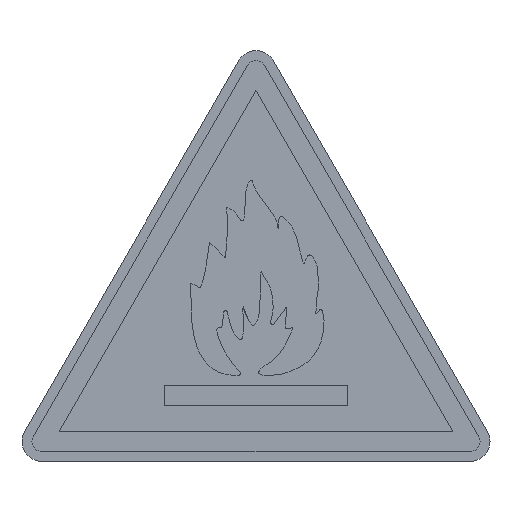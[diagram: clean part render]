
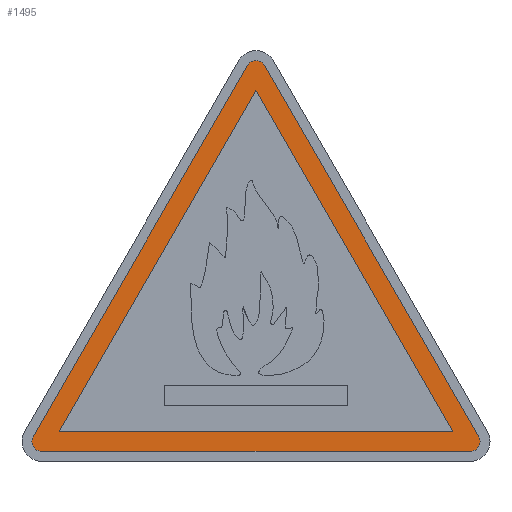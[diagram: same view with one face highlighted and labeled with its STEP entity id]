
A CAD part, top view. The second image highlights one B-rep face of the part: STEP entity #1495.
In plain terms, the highlighted planar face has unit normal (0, 0, 1).
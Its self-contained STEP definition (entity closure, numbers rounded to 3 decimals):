
#2 = EDGE_LOOP ( 'NONE', ( #222, #993, #475 ) ) ;
#5 = CARTESIAN_POINT ( 'NONE',  ( -19.804, 3., 0.22 ) ) ;
#11 = LINE ( 'NONE', #1099, #1204 ) ;
#37 = CARTESIAN_POINT ( 'NONE',  ( -22.402, 2.5, 0.22 ) ) ;
#40 = PLANE ( 'NONE',  #751 ) ;
#49 = VERTEX_POINT ( 'NONE', #1491 ) ;
#148 = VERTEX_POINT ( 'NONE', #37 ) ;
#154 = DIRECTION ( 'NONE',  ( 0., 0., 1. ) ) ;
#173 = CARTESIAN_POINT ( 'NONE',  ( 0., 39.301, 0.22 ) ) ;
#180 = CARTESIAN_POINT ( 'NONE',  ( 0., 37.301, 0.22 ) ) ;
#222 = ORIENTED_EDGE ( 'NONE', *, *, #997, .F. ) ;
#243 = LINE ( 'NONE', #848, #1040 ) ;
#282 = FACE_OUTER_BOUND ( 'NONE', #567, .T. ) ;
#300 = VECTOR ( 'NONE', #679, 1000. ) ;
#307 = EDGE_CURVE ( 'NONE', #661, #1910, #1427, .T. ) ;
#309 = DIRECTION ( 'NONE',  ( -0.5, 0.866, 0. ) ) ;
#332 = CARTESIAN_POINT ( 'NONE',  ( -22.536, 2., 0.22 ) ) ;
#367 = DIRECTION ( 'NONE',  ( 0., 0., 1. ) ) ;
#383 = CARTESIAN_POINT ( 'NONE',  ( 0., 37.301, 0.22 ) ) ;
#448 = EDGE_CURVE ( 'NONE', #1717, #1006, #1351, .T. ) ;
#453 = AXIS2_PLACEMENT_3D ( 'NONE', #1249, #1700, #1547 ) ;
#475 = ORIENTED_EDGE ( 'NONE', *, *, #741, .F. ) ;
#542 = ORIENTED_EDGE ( 'NONE', *, *, #933, .T. ) ;
#567 = EDGE_LOOP ( 'NONE', ( #1202, #1309, #1641, #983, #1593, #542, #838 ) ) ;
#570 = VERTEX_POINT ( 'NONE', #1304 ) ;
#596 = LINE ( 'NONE', #1028, #1885 ) ;
#614 = VERTEX_POINT ( 'NONE', #332 ) ;
#661 = VERTEX_POINT ( 'NONE', #180 ) ;
#679 = DIRECTION ( 'NONE',  ( -0.5, -0.866, 0. ) ) ;
#703 = AXIS2_PLACEMENT_3D ( 'NONE', #1603, #154, #1340 ) ;
#741 = EDGE_CURVE ( 'NONE', #1229, #661, #1622, .T. ) ;
#748 = EDGE_CURVE ( 'NONE', #1341, #49, #596, .T. ) ;
#751 = AXIS2_PLACEMENT_3D ( 'NONE', #772, #1814, #1367 ) ;
#772 = CARTESIAN_POINT ( 'NONE',  ( 0., 39.301, 0.22 ) ) ;
#793 = VECTOR ( 'NONE', #309, 1000. ) ;
#838 = ORIENTED_EDGE ( 'NONE', *, *, #1163, .T. ) ;
#848 = CARTESIAN_POINT ( 'NONE',  ( -19.804, 3., 0.22 ) ) ;
#899 = CARTESIAN_POINT ( 'NONE',  ( 19.804, 3., 0.22 ) ) ;
#933 = EDGE_CURVE ( 'NONE', #49, #570, #1781, .T. ) ;
#983 = ORIENTED_EDGE ( 'NONE', *, *, #1475, .T. ) ;
#993 = ORIENTED_EDGE ( 'NONE', *, *, #307, .F. ) ;
#997 = EDGE_CURVE ( 'NONE', #1910, #1229, #243, .T. ) ;
#1006 = VERTEX_POINT ( 'NONE', #1407 ) ;
#1013 = AXIS2_PLACEMENT_3D ( 'NONE', #173, #1350, #1649 ) ;
#1028 = CARTESIAN_POINT ( 'NONE',  ( -21.536, 1., 0.22 ) ) ;
#1040 = VECTOR ( 'NONE', #1552, 1000. ) ;
#1099 = CARTESIAN_POINT ( 'NONE',  ( 22.402, 2.5, 0.22 ) ) ;
#1163 = EDGE_CURVE ( 'NONE', #570, #1717, #11, .T. ) ;
#1202 = ORIENTED_EDGE ( 'NONE', *, *, #448, .T. ) ;
#1204 = VECTOR ( 'NONE', #1807, 1000. ) ;
#1229 = VERTEX_POINT ( 'NONE', #899 ) ;
#1232 = CARTESIAN_POINT ( 'NONE',  ( -0.866, 39.801, 0.22 ) ) ;
#1233 = FACE_BOUND ( 'NONE', #2, .T. ) ;
#1249 = CARTESIAN_POINT ( 'NONE',  ( 21.536, 2., 0.22 ) ) ;
#1304 = CARTESIAN_POINT ( 'NONE',  ( 22.402, 2.5, 0.22 ) ) ;
#1309 = ORIENTED_EDGE ( 'NONE', *, *, #1778, .T. ) ;
#1340 = DIRECTION ( 'NONE',  ( 1., 0., 0. ) ) ;
#1341 = VERTEX_POINT ( 'NONE', #1640 ) ;
#1344 = CIRCLE ( 'NONE', #1847, 1. ) ;
#1350 = DIRECTION ( 'NONE',  ( 0., 0., 1. ) ) ;
#1351 = CIRCLE ( 'NONE', #1013, 1. ) ;
#1367 = DIRECTION ( 'NONE',  ( 1., 0., 0. ) ) ;
#1406 = VECTOR ( 'NONE', #1825, 1000. ) ;
#1407 = CARTESIAN_POINT ( 'NONE',  ( -0.866, 39.801, 0.22 ) ) ;
#1427 = LINE ( 'NONE', #383, #300 ) ;
#1475 = EDGE_CURVE ( 'NONE', #614, #1341, #1537, .T. ) ;
#1491 = CARTESIAN_POINT ( 'NONE',  ( 21.536, 1., 0.22 ) ) ;
#1495 = ADVANCED_FACE ( 'NONE', ( #282, #1233 ), #40, .T. ) ;
#1537 = CIRCLE ( 'NONE', #703, 1. ) ;
#1540 = DIRECTION ( 'NONE',  ( 1., 0., 0. ) ) ;
#1547 = DIRECTION ( 'NONE',  ( 1., 0., 0. ) ) ;
#1552 = DIRECTION ( 'NONE',  ( 1., 0., 0. ) ) ;
#1593 = ORIENTED_EDGE ( 'NONE', *, *, #748, .T. ) ;
#1603 = CARTESIAN_POINT ( 'NONE',  ( -21.536, 2., 0.22 ) ) ;
#1612 = DIRECTION ( 'NONE',  ( 1., 0., 0. ) ) ;
#1613 = EDGE_CURVE ( 'NONE', #148, #614, #1344, .T. ) ;
#1622 = LINE ( 'NONE', #1929, #793 ) ;
#1640 = CARTESIAN_POINT ( 'NONE',  ( -21.536, 1., 0.22 ) ) ;
#1641 = ORIENTED_EDGE ( 'NONE', *, *, #1613, .T. ) ;
#1649 = DIRECTION ( 'NONE',  ( 1., 0., 0. ) ) ;
#1675 = LINE ( 'NONE', #1232, #1406 ) ;
#1690 = CARTESIAN_POINT ( 'NONE',  ( -21.536, 2., 0.22 ) ) ;
#1700 = DIRECTION ( 'NONE',  ( 0., 0., 1. ) ) ;
#1717 = VERTEX_POINT ( 'NONE', #1783 ) ;
#1778 = EDGE_CURVE ( 'NONE', #1006, #148, #1675, .T. ) ;
#1781 = CIRCLE ( 'NONE', #453, 1. ) ;
#1783 = CARTESIAN_POINT ( 'NONE',  ( 0.866, 39.801, 0.22 ) ) ;
#1807 = DIRECTION ( 'NONE',  ( -0.5, 0.866, 0. ) ) ;
#1814 = DIRECTION ( 'NONE',  ( 0., 0., 1. ) ) ;
#1825 = DIRECTION ( 'NONE',  ( -0.5, -0.866, 0. ) ) ;
#1847 = AXIS2_PLACEMENT_3D ( 'NONE', #1690, #367, #1540 ) ;
#1885 = VECTOR ( 'NONE', #1612, 1000. ) ;
#1910 = VERTEX_POINT ( 'NONE', #5 ) ;
#1929 = CARTESIAN_POINT ( 'NONE',  ( 19.804, 3., 0.22 ) ) ;
